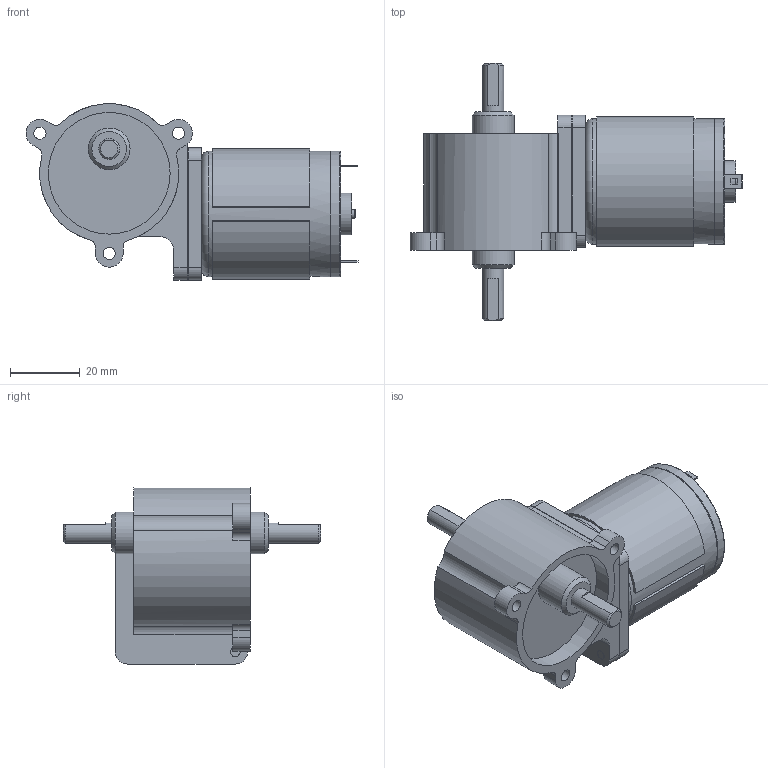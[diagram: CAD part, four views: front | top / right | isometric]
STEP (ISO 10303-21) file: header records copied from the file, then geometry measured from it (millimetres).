
FILE_DESCRIPTION((''),'2;1');
FILE_NAME('C:\Documents and Settings\SSEGAWA\デスクトップ\TP-3640B-KWR.STP','2013-07-18T17:32:46',('SSEGAWA'),(''),'Autodesk Inventor 2010','Autodesk Inventor 2010','');
FILE_SCHEMA(('CONFIG_CONTROL_DESIGN'));
Length unit declared in the file: millimetre
Products named in the file (1): tp_3640bce_kwr_Shrinkwrap_1
Bounding box: 95.42 x 73.9 x 50.63 mm (x, y, z)
Volume: 95806.1 mm3; surface area: 17460 mm2
Topology: 1 solids, 4 shells, 148 faces, 354 edges, 235 vertices
Faces by surface type: plane 77, cylinder 44, bspline 19, cone 5, torus 3
Full cylindrical faces by diameter (mm): 2.5 x2, 4 x1, 4.5 x1, 6 x2, 9.3 x1, 10 x1, 12 x3, 35 x1, 35.6 x1, 36 x2
Entity records: 4375 total; most frequent: CARTESIAN_POINT 898, DIRECTION 689, ORIENTED_EDGE 616, EDGE_CURVE 308, AXIS2_PLACEMENT_3D 255, VERTEX_POINT 222, EDGE_LOOP 214, VECTOR 179
